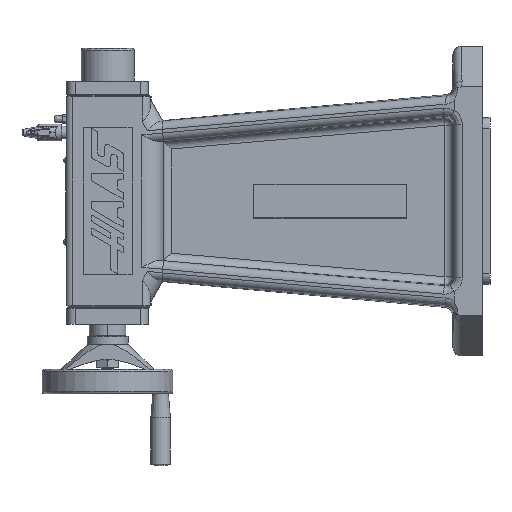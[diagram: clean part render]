
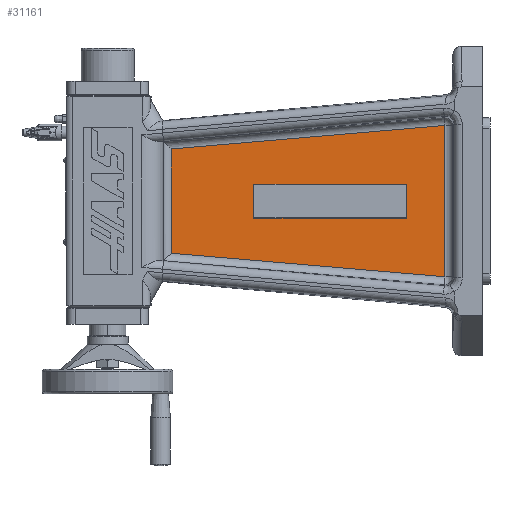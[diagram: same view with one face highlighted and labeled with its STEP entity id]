
A CAD part, left-side view. The second image highlights one B-rep face of the part: STEP entity #31161.
In plain terms, the highlighted planar face has unit normal (-1, 0, 0).
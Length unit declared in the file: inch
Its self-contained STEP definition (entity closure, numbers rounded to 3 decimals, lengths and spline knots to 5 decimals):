
#102 = ORIENTED_EDGE ( 'NONE', *, *, #24595, .T. ) ;
#942 = DIRECTION ( 'NONE',  ( 0., 0., -1. ) ) ;
#1464 = EDGE_CURVE ( 'Defeatured_0_45+Defeatured_0_96+Defeatured_0_94+Defeatured_0_95', #30518, #15169, #29300, .T. ) ;
#1706 = VECTOR ( 'NONE', #16410, 39.37008 ) ;
#1789 = ORIENTED_EDGE ( 'NONE', *, *, #16655, .F. ) ;
#1941 = LINE ( 'NONE', #9454, #26310 ) ;
#2564 = VERTEX_POINT ( 'NONE', #31317 ) ;
#2796 = CARTESIAN_POINT ( 'NONE',  ( -0.3, -11.46568, -2.41558 ) ) ;
#2920 = CARTESIAN_POINT ( 'NONE',  ( -0.3, -4.483, -0.52 ) ) ;
#3282 = PLANE ( 'NONE',  #13751 ) ;
#3340 = VERTEX_POINT ( 'NONE', #30112 ) ;
#3619 = DIRECTION ( 'NONE',  ( -1., 0., 0. ) ) ;
#5057 = CARTESIAN_POINT ( 'NONE',  ( -0.3, -10.33656, 0. ) ) ;
#5074 = CARTESIAN_POINT ( 'NONE',  ( -0.3, -9.173, -0.52 ) ) ;
#5622 = VECTOR ( 'NONE', #942, 39.37008 ) ;
#6688 = EDGE_CURVE ( 'Defeatured_0_45+Defeatured_0_95+Defeatured_0_96+Defeatured_0_90', #15169, #2564, #19263, .T. ) ;
#8198 = DIRECTION ( 'NONE',  ( 0., -0.996, -0.086 ) ) ;
#8917 = CARTESIAN_POINT ( 'NONE',  ( -0.3, -1.95085, 1.59895 ) ) ;
#9048 = CARTESIAN_POINT ( 'NONE',  ( -0.3, -1.95085, -1.59895 ) ) ;
#9454 = CARTESIAN_POINT ( 'NONE',  ( -0.3, -9.173, -0.52 ) ) ;
#10248 = DIRECTION ( 'NONE',  ( 0., -1., 0. ) ) ;
#10453 = EDGE_CURVE ( 'Defeatured_0_147+Defeatured_0_45+Defeatured_0_146+Defeatured_0_148', #29461, #21839, #1941, .T. ) ;
#10490 = CARTESIAN_POINT ( 'NONE',  ( -0.3, -4.483, -0.52 ) ) ;
#10650 = VERTEX_POINT ( 'NONE', #10490 ) ;
#11102 = ORIENTED_EDGE ( 'NONE', *, *, #1464, .T. ) ;
#11123 = FACE_BOUND ( 'NONE', #12644, .T. ) ;
#11220 = VECTOR ( 'NONE', #8198, 39.37008 ) ;
#11778 = LINE ( 'NONE', #33099, #17810 ) ;
#12638 = ORIENTED_EDGE ( 'NONE', *, *, #6688, .T. ) ;
#12644 = EDGE_LOOP ( 'NONE', ( #17553, #28459, #1789, #30262 ) ) ;
#12681 = VECTOR ( 'NONE', #10248, 39.37008 ) ;
#13751 = AXIS2_PLACEMENT_3D ( 'NONE', #24485, #3619, #16224 ) ;
#14298 = CARTESIAN_POINT ( 'NONE',  ( -0.3, -4.483, 0.52 ) ) ;
#15169 = VERTEX_POINT ( 'NONE', #9048 ) ;
#15198 = CARTESIAN_POINT ( 'NONE',  ( -0.3, -4.483, 0.52 ) ) ;
#15748 = DIRECTION ( 'NONE',  ( 0., 0., 1. ) ) ;
#16224 = DIRECTION ( 'NONE',  ( 0., 0., 1. ) ) ;
#16410 = DIRECTION ( 'NONE',  ( 0., 1., 0. ) ) ;
#16655 = EDGE_CURVE ( 'Defeatured_0_149+Defeatured_0_45+Defeatured_0_148+Defeatured_0_146', #19235, #10650, #22871, .T. ) ;
#16695 = CARTESIAN_POINT ( 'NONE',  ( -0.3, -1.95085, 0. ) ) ;
#17553 = ORIENTED_EDGE ( 'NONE', *, *, #10453, .F. ) ;
#17810 = VECTOR ( 'NONE', #33436, 39.37008 ) ;
#19235 = VERTEX_POINT ( 'NONE', #15198 ) ;
#19263 = LINE ( 'NONE', #2796, #11220 ) ;
#21635 = EDGE_CURVE ( 'Defeatured_0_146+Defeatured_0_45+Defeatured_0_149+Defeatured_0_147', #10650, #29461, #21673, .T. ) ;
#21673 = LINE ( 'NONE', #2920, #12681 ) ;
#21839 = VERTEX_POINT ( 'NONE', #24469 ) ;
#22032 = FACE_OUTER_BOUND ( 'NONE', #26940, .T. ) ;
#22871 = LINE ( 'NONE', #23742, #27103 ) ;
#23148 = DIRECTION ( 'NONE',  ( 0., 0., 1. ) ) ;
#23742 = CARTESIAN_POINT ( 'NONE',  ( -0.3, -4.483, -0.52 ) ) ;
#23835 = LINE ( 'NONE', #5057, #32171 ) ;
#24469 = CARTESIAN_POINT ( 'NONE',  ( -0.3, -9.173, 0.52 ) ) ;
#24485 = CARTESIAN_POINT ( 'NONE',  ( -0.3, -11.673, 0. ) ) ;
#24595 = EDGE_CURVE ( 'Defeatured_0_45+Defeatured_0_94+Defeatured_0_90+Defeatured_0_96', #3340, #30518, #11778, .T. ) ;
#26310 = VECTOR ( 'NONE', #23148, 39.37008 ) ;
#26940 = EDGE_LOOP ( 'NONE', ( #102, #11102, #12638, #31375 ) ) ;
#26983 = EDGE_CURVE ( 'Defeatured_0_148+Defeatured_0_45+Defeatured_0_147+Defeatured_0_149', #21839, #19235, #32282, .T. ) ;
#27103 = VECTOR ( 'NONE', #34348, 39.37008 ) ;
#28459 = ORIENTED_EDGE ( 'NONE', *, *, #21635, .F. ) ;
#29300 = LINE ( 'NONE', #16695, #5622 ) ;
#29461 = VERTEX_POINT ( 'NONE', #5074 ) ;
#30112 = CARTESIAN_POINT ( 'NONE',  ( -0.3, -10.33656, 2.31867 ) ) ;
#30262 = ORIENTED_EDGE ( 'NONE', *, *, #26983, .F. ) ;
#30518 = VERTEX_POINT ( 'NONE', #8917 ) ;
#31161 = ADVANCED_FACE ( 'Defeatured_0_45', ( #22032, #11123 ), #3282, .T. ) ;
#31317 = CARTESIAN_POINT ( 'NONE',  ( -0.3, -10.33656, -2.31867 ) ) ;
#31375 = ORIENTED_EDGE ( 'NONE', *, *, #31666, .T. ) ;
#31666 = EDGE_CURVE ( 'Defeatured_0_45+Defeatured_0_90+Defeatured_0_95+Defeatured_0_94', #2564, #3340, #23835, .T. ) ;
#32171 = VECTOR ( 'NONE', #15748, 39.37008 ) ;
#32282 = LINE ( 'NONE', #14298, #1706 ) ;
#33099 = CARTESIAN_POINT ( 'NONE',  ( -0.3, -11.46568, 2.41558 ) ) ;
#33436 = DIRECTION ( 'NONE',  ( 0., 0.996, -0.086 ) ) ;
#34348 = DIRECTION ( 'NONE',  ( 0., 0., -1. ) ) ;
